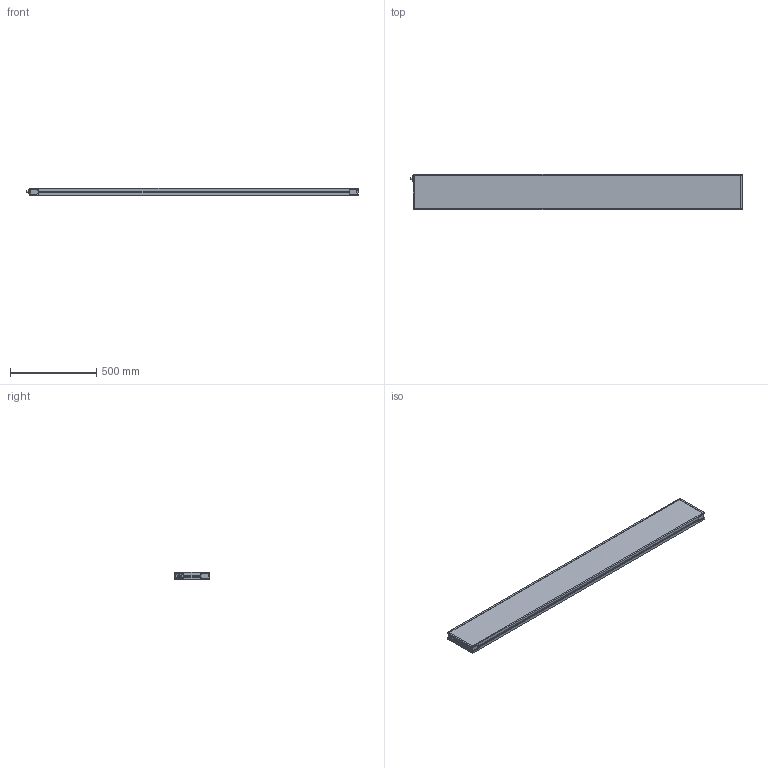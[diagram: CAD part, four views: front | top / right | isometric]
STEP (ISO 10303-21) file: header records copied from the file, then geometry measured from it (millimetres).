
FILE_DESCRIPTION (( 'STEP AP214' ), '1' );
FILE_NAME ('MBACK-xxxx-xxx-M1_CLIENT200x1900.STEP', '2022-03-31T15:58:22', ( '' ), ( '' ), 'SwSTEP 2.0', 'SolidWorks 2020', '' );
FILE_SCHEMA (( 'AUTOMOTIVE_DESIGN' ));
Length unit declared in the file: millimetre
Products named in the file (1): MBACK-xxxx-xxx-M1_CLIENT200x1900
Bounding box: 1925.9 x 208 x 45.5 mm (x, y, z)
Volume: 16440504.2 mm3; surface area: 1074818.3 mm2
Topology: 1 solids, 1 shells, 442 faces, 1144 edges, 760 vertices
Faces by surface type: plane 249, cylinder 105, bspline 80, cone 8
Entity records: 17236 total; most frequent: CARTESIAN_POINT 6699, ORIENTED_EDGE 2288, DIRECTION 1936, EDGE_CURVE 1144, VERTEX_POINT 760, VECTOR 758, LINE 758, AXIS2_PLACEMENT_3D 589
